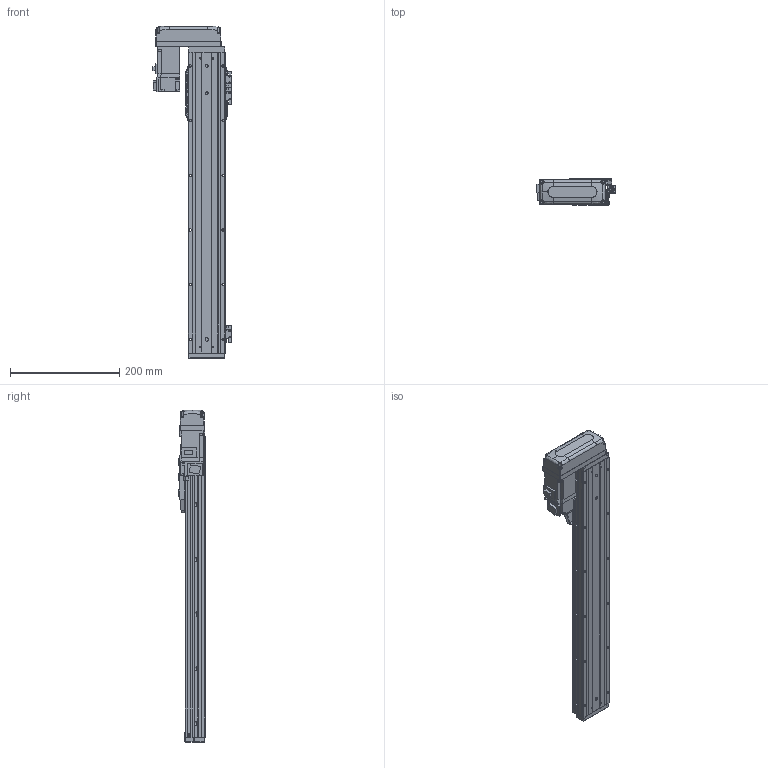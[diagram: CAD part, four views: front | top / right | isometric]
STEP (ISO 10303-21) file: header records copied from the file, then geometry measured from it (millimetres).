
FILE_DESCRIPTION (( 'STEP AP203' ), '1' );
FILE_NAME ('CTHA60-400-BR-M10-C4L.step', '2022-03-19T06:22:04', ( '微软用户' ), ( '微软中国' ), 'SwSTEP 2.0', 'SolidWorks 2020', '' );
FILE_SCHEMA (( 'CONFIG_CONTROL_DESIGN' ));
Length unit declared in the file: millimetre
Products named in the file (18): CTHA60-001_550; GBT 70.1-M4×16; CTHA60-031; CTHA60-004; GBT77-2000 M3×3; CTHA60-006-1; CTHA60-005; GBT 70.1-M3℅6; CTHA60-033; GB¨uT 70.2-M3¡Á6_M3¡Á6; GBT 70.3-M3℅6; CTHA60-400-BR-M10-C4L; EE_SX911P_R; CTHA60-016; CTHA60-017; HG-KR13（三菱）; CTHA60-021; CTHA60-002
Assembly tree (54 placements, depth 2):
  CTHA60-400-BR-M10-C4L
    CTHA60-001_550
    CTHA60-004
    CTHA60-005
    GB¨uT 70.2-M3¡Á6_M3¡Á6  x10
    EE_SX911P_R  x3
    CTHA60-017  x3
    CTHA60-021  x2
    GBT 70.1-M4×16  x10
    GBT77-2000 M3×3  x6
    GBT 70.1-M3℅6  x6
    GBT 70.3-M3℅6  x4
    CTHA60-016  x2
    HG-KR13（三菱）
    CTHA60-002
    CTHA60-031
    CTHA60-006-1
    CTHA60-033
Bounding box: 143.62 x 48 x 607 mm (x, y, z)
Volume: 1118476.3 mm3; surface area: 344510.6 mm2
Topology: 56 solids, 56 shells, 2494 faces, 5981 edges, 3685 vertices
Faces by surface type: plane 1437, cylinder 571, cone 338, torus 92, bspline 32, sphere 24
Entity records: 44365 total; most frequent: CARTESIAN_POINT 8586, DIRECTION 6836, ORIENTED_EDGE 6770, EDGE_CURVE 3385, LINE 2400, VECTOR 2400, AXIS2_PLACEMENT_3D 2218, VERTEX_POINT 2144
